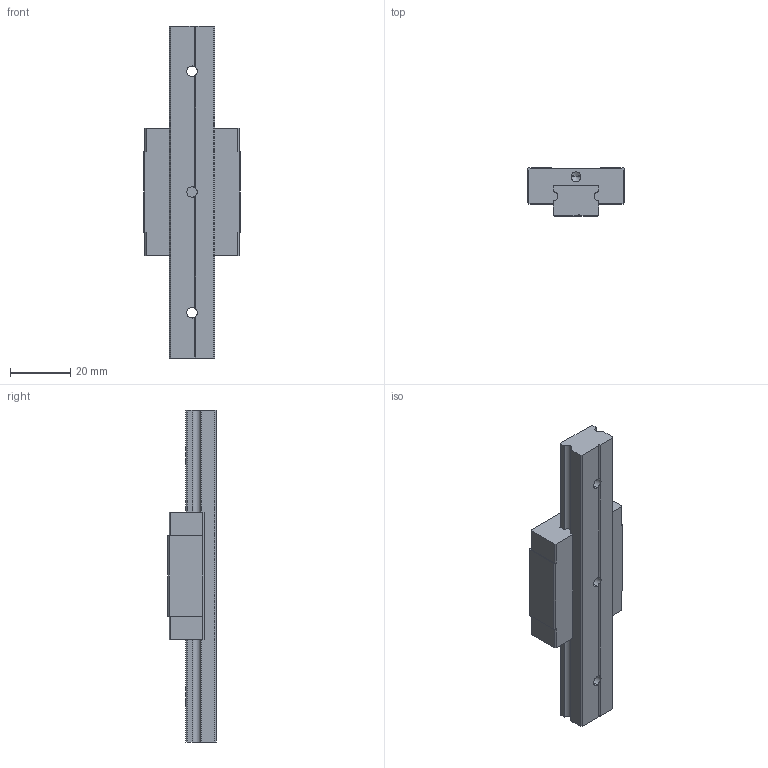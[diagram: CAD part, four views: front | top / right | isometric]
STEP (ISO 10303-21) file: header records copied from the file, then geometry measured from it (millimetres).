
FILE_DESCRIPTION (( 'STEP AP214' ), '1' );
FILE_NAME ('2.1055 Lineaarikelkka MGN15CE.STEP', '2025-09-19T06:51:24', ( '' ), ( '' ), 'SwSTEP 2.0', 'SolidWorks 2025', '' );
FILE_SCHEMA (( 'AUTOMOTIVE_DESIGN' ));
Length unit declared in the file: millimetre
Products named in the file (1): 2.1055 Lineaarikelkka MGN15CE
Bounding box: 32 x 16 x 110 mm (x, y, z)
Volume: 27224.7 mm3; surface area: 11575.8 mm2
Topology: 2 solids, 2 shells, 101 faces, 279 edges, 176 vertices
Faces by surface type: plane 53, cylinder 36, cone 12
Entity records: 4484 total; most frequent: CARTESIAN_POINT 761, DIRECTION 537, ORIENTED_EDGE 534, EDGE_CURVE 267, VECTOR 189, LINE 189, VERTEX_POINT 176, AXIS2_PLACEMENT_3D 174
